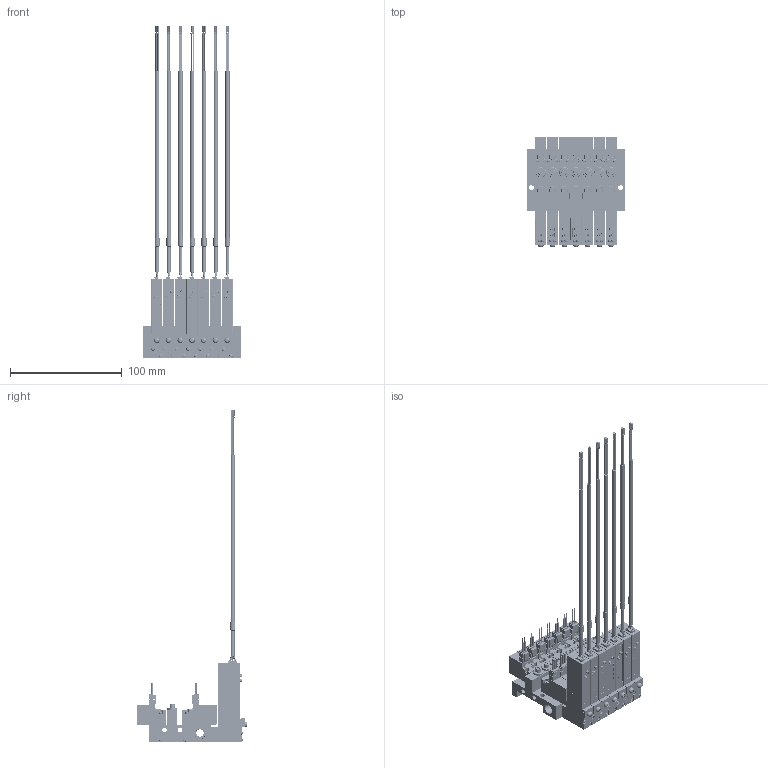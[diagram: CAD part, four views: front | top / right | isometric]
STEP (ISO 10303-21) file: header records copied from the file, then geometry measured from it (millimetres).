
FILE_DESCRIPTION(('STEP AP203'),'1');
FILE_NAME('1-L-4EZ-M07-V9.stp','2025-05-09T01:28:42',(' '),(' '),'Spatial InterOp 3D',' ',' ');
FILE_SCHEMA(('CONFIG_CONTROL_DESIGN'));
Length unit declared in the file: millimetre
Products named in the file (205): PV1※1-L-4EZ-M07-V9; BODY; PLATE; NEEDLE; BOLT; SOLENOID VALVE VOLTAGE PV; 42; 45; 48; 51; SOLENOID VALVE PV101-W; BRAKET(MPS-V9  PV-L용)NEW; BRAKET; MPS-V9AC.ics; __1; MPS-V9AC; MSBR-1_1; MSBR-4_1; MSBR-7_1; MSBR-21_1; MSBR-24_1; MSBR-25_1; MSBR-26_1; MSBR-27_1; MSBR-28_1; MSBR-29_1
Assembly tree (204 placements, depth 5):
  PV1※1-L-4EZ-M07-V9
    BODY
    PLATE
    PLATE
    NEEDLE
    BOLT
    BOLT
    BOLT
    BOLT
    BOLT
    BOLT
    SOLENOID VALVE VOLTAGE PV
      42
      45
      48
      51
    NEEDLE
    SOLENOID VALVE VOLTAGE PV
      42
      45
      48
      51
    NEEDLE
    SOLENOID VALVE VOLTAGE PV
      42
      45
      48
      51
    PLATE
    BOLT
    BOLT
    BOLT
    PLATE
    BOLT
    BOLT
    BOLT
    NEEDLE
    SOLENOID VALVE VOLTAGE PV
      42
      45
      48
      51
    NEEDLE
    SOLENOID VALVE VOLTAGE PV
      42
      45
      48
      51
    PLATE
    BOLT
    BOLT
    BOLT
    SOLENOID VALVE VOLTAGE PV
      42
      45
      48
      51
    NEEDLE
    PLATE
    BOLT
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Bounding box: 87 x 99.29 x 297.25 mm (x, y, z)
Volume: 200166.2 mm3; surface area: 171308.1 mm2
Topology: 169 solids, 232 shells, 8481 faces, 23064 edges, 15546 vertices
Faces by surface type: plane 6617, cylinder 1421, torus 161, bspline 105, cone 79, extrusion 70, sphere 28
Full cylindrical faces by diameter (mm): 1.4 x21, 2 x21, 2.3 x14, 2.5 x7, 3 x49, 3.5 x7, 4.2 x16, 4.5 x2, 5 x14, 6.5 x1, 8.797 x2, 9 x7
Entity records: 278479 total; most frequent: CARTESIAN_POINT 53599, ORIENTED_EDGE 44526, DIRECTION 43144, EDGE_CURVE 22529, VECTOR 17522, LINE 17452, VERTEX_POINT 15356, AXIS2_PLACEMENT_3D 12811
